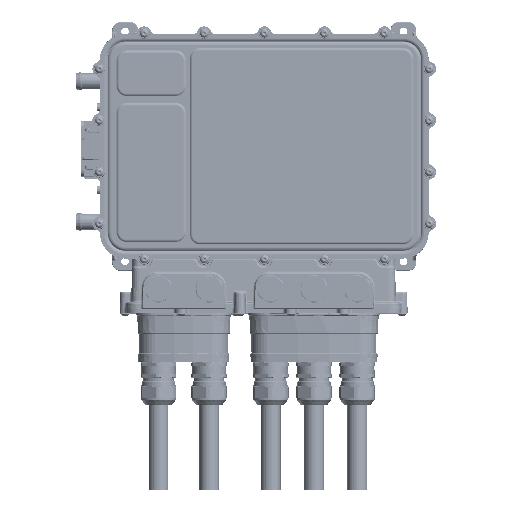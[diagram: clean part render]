
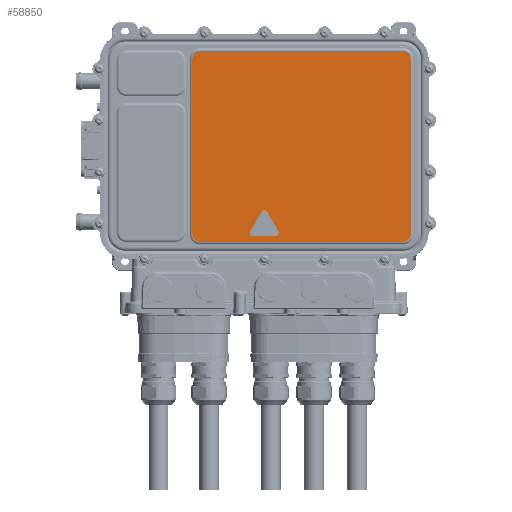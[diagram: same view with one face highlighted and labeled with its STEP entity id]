
A CAD part, top view. The second image highlights one B-rep face of the part: STEP entity #58850.
In plain terms, the highlighted planar face has unit normal (0, 0, 1).
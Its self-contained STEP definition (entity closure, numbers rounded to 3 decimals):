
#39419=FACE_BOUND('',#88573,.T.);
#39420=FACE_BOUND('',#88574,.T.);
#47665=CIRCLE('',#257456,2.6);
#47666=CIRCLE('',#257457,2.6);
#47667=CIRCLE('',#257458,2.6);
#47668=CIRCLE('',#257459,6.551);
#47669=CIRCLE('',#257460,6.551);
#47670=CIRCLE('',#257461,6.551);
#47671=CIRCLE('',#257462,6.551);
#58850=ADVANCED_FACE('',(#39419,#39420),#67965,.T.);
#67965=PLANE('',#257463);
#88573=EDGE_LOOP('',(#153997,#153998,#153999,#154000,#154001,#154002));
#88574=EDGE_LOOP('',(#154003,#154004,#154005,#154006,#154007,#154008,#154009,
#154010));
#103393=LINE('',#430473,#116078);
#103394=LINE('',#430477,#116079);
#103395=LINE('',#430481,#116080);
#103396=LINE('',#430482,#116081);
#103397=LINE('',#430487,#116082);
#103398=LINE('',#430491,#116083);
#103399=LINE('',#430495,#116084);
#116078=VECTOR('',#294447,1.);
#116079=VECTOR('',#294450,1.);
#116080=VECTOR('',#294453,1.);
#116081=VECTOR('',#294454,1.);
#116082=VECTOR('',#294457,1.);
#116083=VECTOR('',#294460,1.);
#116084=VECTOR('',#294463,1.);
#153997=ORIENTED_EDGE('',*,*,#222205,.F.);
#153998=ORIENTED_EDGE('',*,*,#222206,.F.);
#153999=ORIENTED_EDGE('',*,*,#222207,.F.);
#154000=ORIENTED_EDGE('',*,*,#222208,.F.);
#154001=ORIENTED_EDGE('',*,*,#222209,.F.);
#154002=ORIENTED_EDGE('',*,*,#222210,.F.);
#154003=ORIENTED_EDGE('',*,*,#222211,.T.);
#154004=ORIENTED_EDGE('',*,*,#222212,.T.);
#154005=ORIENTED_EDGE('',*,*,#222213,.T.);
#154006=ORIENTED_EDGE('',*,*,#222214,.T.);
#154007=ORIENTED_EDGE('',*,*,#222215,.T.);
#154008=ORIENTED_EDGE('',*,*,#222216,.T.);
#154009=ORIENTED_EDGE('',*,*,#222217,.T.);
#154010=ORIENTED_EDGE('',*,*,#222218,.T.);
#196392=VERTEX_POINT('',#430471);
#196393=VERTEX_POINT('',#430472);
#196394=VERTEX_POINT('',#430474);
#196395=VERTEX_POINT('',#430476);
#196396=VERTEX_POINT('',#430478);
#196397=VERTEX_POINT('',#430480);
#196398=VERTEX_POINT('',#430483);
#196399=VERTEX_POINT('',#430484);
#196400=VERTEX_POINT('',#430486);
#196401=VERTEX_POINT('',#430488);
#196402=VERTEX_POINT('',#430490);
#196403=VERTEX_POINT('',#430492);
#196404=VERTEX_POINT('',#430494);
#196405=VERTEX_POINT('',#430496);
#222205=EDGE_CURVE('',#196392,#196393,#47665,.T.);
#222206=EDGE_CURVE('',#196394,#196392,#103393,.T.);
#222207=EDGE_CURVE('',#196395,#196394,#47666,.T.);
#222208=EDGE_CURVE('',#196396,#196395,#103394,.T.);
#222209=EDGE_CURVE('',#196397,#196396,#47667,.T.);
#222210=EDGE_CURVE('',#196393,#196397,#103395,.T.);
#222211=EDGE_CURVE('',#196398,#196399,#103396,.T.);
#222212=EDGE_CURVE('',#196399,#196400,#47668,.T.);
#222213=EDGE_CURVE('',#196400,#196401,#103397,.T.);
#222214=EDGE_CURVE('',#196401,#196402,#47669,.T.);
#222215=EDGE_CURVE('',#196402,#196403,#103398,.T.);
#222216=EDGE_CURVE('',#196403,#196404,#47670,.T.);
#222217=EDGE_CURVE('',#196404,#196405,#103399,.T.);
#222218=EDGE_CURVE('',#196405,#196398,#47671,.T.);
#257456=AXIS2_PLACEMENT_3D('',#430470,#294445,#294446);
#257457=AXIS2_PLACEMENT_3D('',#430475,#294448,#294449);
#257458=AXIS2_PLACEMENT_3D('',#430479,#294451,#294452);
#257459=AXIS2_PLACEMENT_3D('',#430485,#294455,#294456);
#257460=AXIS2_PLACEMENT_3D('',#430489,#294458,#294459);
#257461=AXIS2_PLACEMENT_3D('',#430493,#294461,#294462);
#257462=AXIS2_PLACEMENT_3D('',#430497,#294464,#294465);
#257463=AXIS2_PLACEMENT_3D('',#430498,#294466,#294467);
#294445=DIRECTION('',(0.,0.,1.));
#294446=DIRECTION('',(1.,0.,0.));
#294447=DIRECTION('',(-0.5,-0.866,0.));
#294448=DIRECTION('',(0.,0.,1.));
#294449=DIRECTION('',(1.,0.,0.));
#294450=DIRECTION('',(-0.5,0.866,0.));
#294451=DIRECTION('',(0.,0.,1.));
#294452=DIRECTION('',(1.,0.,0.));
#294453=DIRECTION('',(1.,0.,0.));
#294454=DIRECTION('',(0.,1.,0.));
#294455=DIRECTION('',(0.,0.,1.));
#294456=DIRECTION('',(1.,0.,0.));
#294457=DIRECTION('',(-1.,0.,0.));
#294458=DIRECTION('',(0.,0.,1.));
#294459=DIRECTION('',(1.,0.,0.));
#294460=DIRECTION('',(0.,-1.,0.));
#294461=DIRECTION('',(0.,0.,1.));
#294462=DIRECTION('',(1.,0.,0.));
#294463=DIRECTION('',(1.,0.,0.));
#294464=DIRECTION('',(0.,0.,1.));
#294465=DIRECTION('',(1.,0.,0.));
#294466=DIRECTION('',(0.,0.,1.));
#294467=DIRECTION('',(1.,0.,0.));
#430470=CARTESIAN_POINT('',(-12.602,-74.499,71.5));
#430471=CARTESIAN_POINT('',(-14.853,-73.198,71.5));
#430472=CARTESIAN_POINT('',(-12.602,-77.099,71.5));
#430473=CARTESIAN_POINT('',(-4.949,-56.049,71.5));
#430474=CARTESIAN_POINT('',(-4.949,-56.049,71.5));
#430475=CARTESIAN_POINT('',(-2.697,-57.349,71.5));
#430476=CARTESIAN_POINT('',(-0.446,-56.05,71.5));
#430477=CARTESIAN_POINT('',(9.454,-73.202,71.5));
#430478=CARTESIAN_POINT('',(9.454,-73.202,71.5));
#430479=CARTESIAN_POINT('',(7.202,-74.501,71.5));
#430480=CARTESIAN_POINT('',(7.202,-77.101,71.5));
#430481=CARTESIAN_POINT('',(-12.602,-77.099,71.5));
#430482=CARTESIAN_POINT('',(123.151,75.6,71.5));
#430483=CARTESIAN_POINT('',(123.151,-75.6,71.5));
#430484=CARTESIAN_POINT('',(123.151,75.6,71.5));
#430485=CARTESIAN_POINT('',(116.6,75.6,71.5));
#430486=CARTESIAN_POINT('',(116.6,82.151,71.5));
#430487=CARTESIAN_POINT('',(-58.,82.151,71.5));
#430488=CARTESIAN_POINT('',(-58.,82.151,71.5));
#430489=CARTESIAN_POINT('',(-58.,75.6,71.5));
#430490=CARTESIAN_POINT('',(-64.551,75.6,71.5));
#430491=CARTESIAN_POINT('',(-64.551,-75.6,71.5));
#430492=CARTESIAN_POINT('',(-64.551,-75.6,71.5));
#430493=CARTESIAN_POINT('',(-58.,-75.6,71.5));
#430494=CARTESIAN_POINT('',(-58.,-82.151,71.5));
#430495=CARTESIAN_POINT('',(116.6,-82.151,71.5));
#430496=CARTESIAN_POINT('',(116.6,-82.151,71.5));
#430497=CARTESIAN_POINT('',(116.6,-75.6,71.5));
#430498=CARTESIAN_POINT('',(-58.,-75.6,71.5));
